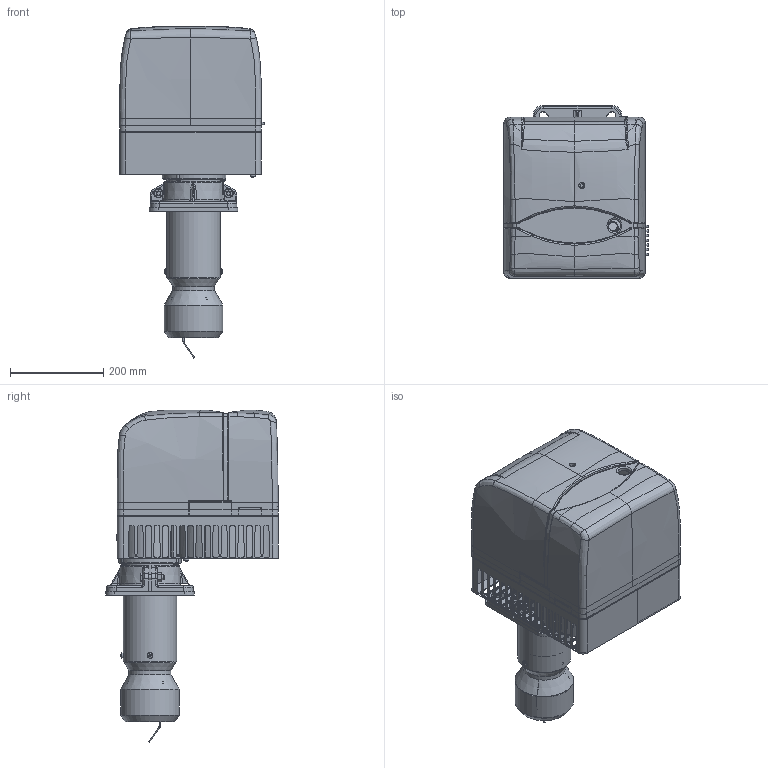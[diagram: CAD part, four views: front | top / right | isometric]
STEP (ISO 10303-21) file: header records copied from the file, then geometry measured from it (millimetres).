
FILE_DESCRIPTION (( 'STEP AP203' ), '1' );
FILE_NAME ('17130020-142608.STEP', '2018-08-07T11:38:10', ( '' ), ( '' ), 'SwSTEP 2.0', 'SolidWorks 2018', '' );
FILE_SCHEMA (( 'CONFIG_CONTROL_DESIGN' ));
Products named in the file (1): 17130020-142608
Bounding box: 309.55 x 370 x 711.41 mm (x, y, z)
Surface area: 1366775.8 mm2 (no closed solid volume)
Topology: 0 solids, 116 shells, 1253 faces, 5730 edges, 4350 vertices
Faces by surface type: plane 497, cylinder 463, bspline 219, cone 39, torus 25, sphere 10
Full cylindrical faces by diameter (mm): 2.5 x138, 3 x3, 3.45 x3, 4 x1, 4.5 x3, 5 x2, 9 x2, 9.5 x7, 10 x5, 11 x4, 12 x3, 16 x2, 19.7 x1, 20 x2, 36 x1, 65 x1, 80 x1, 90 x2, 109.8 x1, 110 x1, 114 x1, 115 x1, 122 x1, 126 x1
Entity records: 97554 total; most frequent: CARTESIAN_POINT 54185, DIRECTION 8447, ORIENTED_EDGE 7734, EDGE_CURVE 5473, VERTEX_POINT 4322, AXIS2_PLACEMENT_3D 3019, VECTOR 2409, LINE 2409
